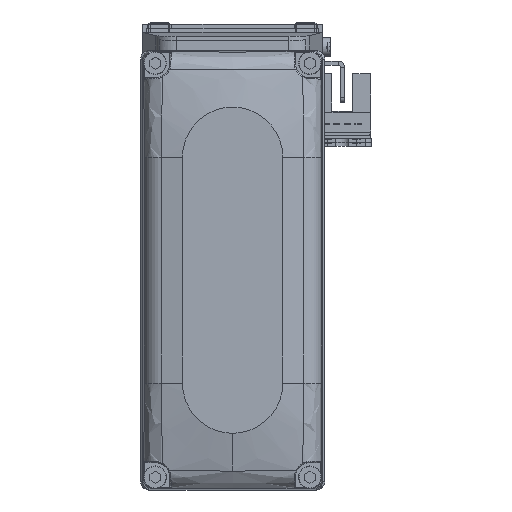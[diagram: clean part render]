
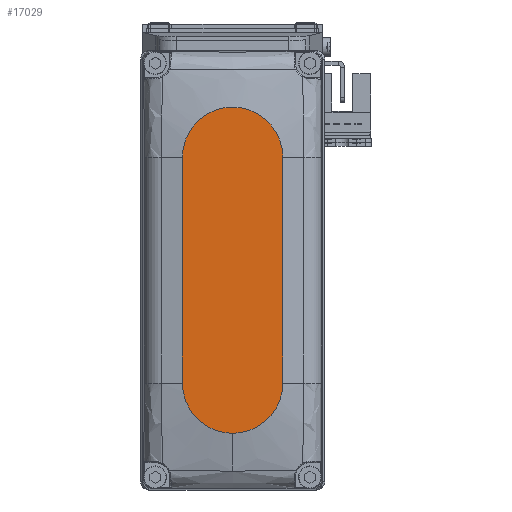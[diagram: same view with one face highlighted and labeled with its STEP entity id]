
A CAD part, top view. The second image highlights one B-rep face of the part: STEP entity #17029.
In plain terms, the highlighted planar face has unit normal (0, 0, 1).
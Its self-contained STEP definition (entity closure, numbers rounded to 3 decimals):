
#1636 = DIRECTION ( 'NONE',  ( 1., 0., 0. ) ) ;
#2922 = CIRCLE ( 'NONE', #47130, 12. ) ;
#4472 = CIRCLE ( 'NONE', #48665, 12. ) ;
#6499 = PLANE ( 'NONE',  #24073 ) ;
#7489 = EDGE_CURVE ( 'NONE', #25621, #33806, #2922, .T. ) ;
#7497 = DIRECTION ( 'NONE',  ( -1., 0., 0. ) ) ;
#8175 = CARTESIAN_POINT ( 'NONE',  ( -27., -12., 25. ) ) ;
#9970 = CARTESIAN_POINT ( 'NONE',  ( -27., 0., 25. ) ) ;
#11777 = ORIENTED_EDGE ( 'NONE', *, *, #7489, .T. ) ;
#12126 = ORIENTED_EDGE ( 'NONE', *, *, #26078, .T. ) ;
#12331 = VERTEX_POINT ( 'NONE', #59232 ) ;
#12776 = DIRECTION ( 'NONE',  ( 1., 0., 0. ) ) ;
#13750 = CARTESIAN_POINT ( 'NONE',  ( 27., 0., 25. ) ) ;
#13882 = EDGE_CURVE ( 'NONE', #26652, #22915, #50063, .T. ) ;
#14810 = CARTESIAN_POINT ( 'NONE',  ( 27., 0., 25. ) ) ;
#15968 = AXIS2_PLACEMENT_3D ( 'NONE', #13750, #37847, #61958 ) ;
#16376 = CARTESIAN_POINT ( 'NONE',  ( 39., 0., 25. ) ) ;
#17029 = ADVANCED_FACE ( 'NONE', ( #60672 ), #6499, .T. ) ;
#19475 = CARTESIAN_POINT ( 'NONE',  ( -27., 12., 25. ) ) ;
#22915 = VERTEX_POINT ( 'NONE', #56108 ) ;
#24073 = AXIS2_PLACEMENT_3D ( 'NONE', #30633, #54757, #1636 ) ;
#25621 = VERTEX_POINT ( 'NONE', #19475 ) ;
#26078 = EDGE_CURVE ( 'NONE', #22915, #25621, #37584, .T. ) ;
#26652 = VERTEX_POINT ( 'NONE', #16376 ) ;
#26855 = EDGE_CURVE ( 'NONE', #33806, #12331, #42821, .T. ) ;
#30633 = CARTESIAN_POINT ( 'NONE',  ( 0., 0., 25. ) ) ;
#31280 = ORIENTED_EDGE ( 'NONE', *, *, #13882, .T. ) ;
#32805 = ORIENTED_EDGE ( 'NONE', *, *, #26855, .T. ) ;
#33806 = VERTEX_POINT ( 'NONE', #8175 ) ;
#34087 = DIRECTION ( 'NONE',  ( 0., 0., 1. ) ) ;
#37584 = LINE ( 'NONE', #61682, #70049 ) ;
#37847 = DIRECTION ( 'NONE',  ( 0., 0., 1. ) ) ;
#38934 = DIRECTION ( 'NONE',  ( 0., 0., 1. ) ) ;
#42821 = LINE ( 'NONE', #66917, #76501 ) ;
#47130 = AXIS2_PLACEMENT_3D ( 'NONE', #9970, #34087, #58217 ) ;
#48665 = AXIS2_PLACEMENT_3D ( 'NONE', #14810, #38934, #63022 ) ;
#50063 = CIRCLE ( 'NONE', #15968, 12. ) ;
#52930 = EDGE_CURVE ( 'NONE', #12331, #26652, #4472, .T. ) ;
#54757 = DIRECTION ( 'NONE',  ( 0., 0., 1. ) ) ;
#55490 = EDGE_LOOP ( 'NONE', ( #12126, #11777, #32805, #74183, #31280 ) ) ;
#56108 = CARTESIAN_POINT ( 'NONE',  ( 27., 12., 25. ) ) ;
#58217 = DIRECTION ( 'NONE',  ( 1., 0., 0. ) ) ;
#59232 = CARTESIAN_POINT ( 'NONE',  ( 27., -12., 25. ) ) ;
#60672 = FACE_OUTER_BOUND ( 'NONE', #55490, .T. ) ;
#61682 = CARTESIAN_POINT ( 'NONE',  ( -27., 12., 25. ) ) ;
#61958 = DIRECTION ( 'NONE',  ( 1., 0., 0. ) ) ;
#63022 = DIRECTION ( 'NONE',  ( 1., 0., 0. ) ) ;
#66917 = CARTESIAN_POINT ( 'NONE',  ( -27., -12., 25. ) ) ;
#70049 = VECTOR ( 'NONE', #7497, 1000. ) ;
#74183 = ORIENTED_EDGE ( 'NONE', *, *, #52930, .T. ) ;
#76501 = VECTOR ( 'NONE', #12776, 1000. ) ;
